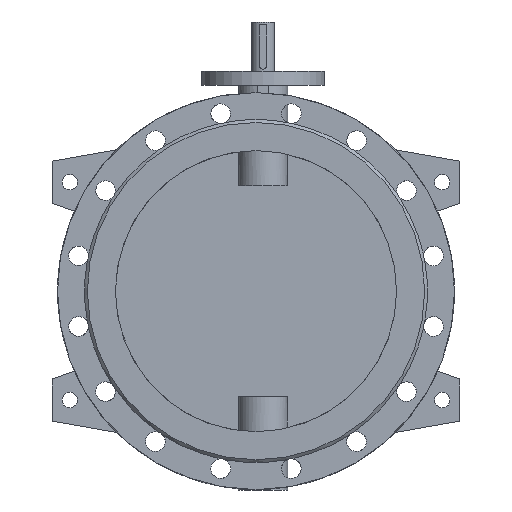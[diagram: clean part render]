
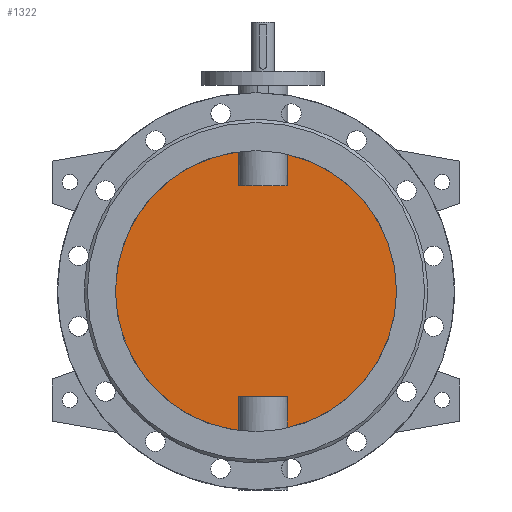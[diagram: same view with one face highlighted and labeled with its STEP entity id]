
A CAD part, front view. The second image highlights one B-rep face of the part: STEP entity #1322.
In plain terms, the highlighted planar face has unit normal (0, -1, 0).
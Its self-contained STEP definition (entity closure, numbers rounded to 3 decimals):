
#1322=ADVANCED_FACE('',(#2704),#2706,.F.);
#2704=FACE_BOUND('',#2705,.T.);
#2705=EDGE_LOOP('',(#3693,#3694,#3695,#3696,#3697,#3698,#3699,#3700));
#2706=PLANE('',#2707);
#2707=AXIS2_PLACEMENT_3D('',#2708,#2709,#2710);
#2708=CARTESIAN_POINT('',(0.,-5.,0.));
#2709=DIRECTION('',(0.,1.,0.));
#2710=DIRECTION('',(1.,0.,0.));
#3693=ORIENTED_EDGE('',*,*,#4198,.T.);
#3694=ORIENTED_EDGE('',*,*,#4204,.T.);
#3695=ORIENTED_EDGE('',*,*,#4205,.T.);
#3696=ORIENTED_EDGE('',*,*,#4206,.T.);
#3697=ORIENTED_EDGE('',*,*,#4200,.T.);
#3698=ORIENTED_EDGE('',*,*,#4207,.T.);
#3699=ORIENTED_EDGE('',*,*,#4208,.T.);
#3700=ORIENTED_EDGE('',*,*,#4209,.T.);
#4198=EDGE_CURVE('',#4989,#4990,#4991,.F.);
#4200=EDGE_CURVE('',#4994,#4992,#4995,.F.);
#4204=EDGE_CURVE('',#4990,#5001,#5002,.T.);
#4205=EDGE_CURVE('',#5001,#5003,#5004,.F.);
#4206=EDGE_CURVE('',#5003,#4994,#5005,.F.);
#4207=EDGE_CURVE('',#4992,#5006,#5007,.F.);
#4208=EDGE_CURVE('',#5006,#5008,#5009,.F.);
#4209=EDGE_CURVE('',#5008,#4989,#5010,.T.);
#4989=VERTEX_POINT('',#8770);
#4990=VERTEX_POINT('',#8771);
#4991=CIRCLE('',#8772,200.);
#4992=VERTEX_POINT('',#8776);
#4994=VERTEX_POINT('',#8839);
#4995=CIRCLE('',#8840,200.);
#5001=VERTEX_POINT('',#8967);
#5002=LINE('',#8968,#8969);
#5003=VERTEX_POINT('',#8971);
#5004=LINE('',#8972,#8973);
#5005=LINE('',#8975,#8976);
#5006=VERTEX_POINT('',#8978);
#5007=LINE('',#8979,#8980);
#5008=VERTEX_POINT('',#8982);
#5009=LINE('',#8983,#8984);
#5010=LINE('',#8986,#8987);
#8770=CARTESIAN_POINT('',(44.641,-5.,-194.954));
#8771=CARTESIAN_POINT('',(44.641,-5.,194.954));
#8772=AXIS2_PLACEMENT_3D('',#8773,#8774,#8775);
#8773=CARTESIAN_POINT('',(0.,-5.,0.));
#8774=DIRECTION('',(0.,1.,0.));
#8775=DIRECTION('',(0.223,0.,0.975));
#8776=CARTESIAN_POINT('',(-24.641,-5.,-198.476));
#8839=CARTESIAN_POINT('',(-24.641,-5.,198.476));
#8840=AXIS2_PLACEMENT_3D('',#8841,#8842,#8843);
#8841=CARTESIAN_POINT('',(0.,-5.,0.));
#8842=DIRECTION('',(0.,1.,0.));
#8843=DIRECTION('',(-0.123,0.,-0.992));
#8967=CARTESIAN_POINT('',(44.641,-5.,150.));
#8968=CARTESIAN_POINT('',(44.641,-5.,194.954));
#8969=VECTOR('',#8970,1.);
#8970=DIRECTION('',(0.,0.,-1.));
#8971=CARTESIAN_POINT('',(-24.641,-5.,150.));
#8972=CARTESIAN_POINT('',(-24.641,-5.,150.));
#8973=VECTOR('',#8974,1.);
#8974=DIRECTION('',(1.,0.,0.));
#8975=CARTESIAN_POINT('',(-24.641,-5.,198.476));
#8976=VECTOR('',#8977,1.);
#8977=DIRECTION('',(0.,0.,-1.));
#8978=CARTESIAN_POINT('',(-24.641,-5.,-150.));
#8979=CARTESIAN_POINT('',(-24.641,-5.,-150.));
#8980=VECTOR('',#8981,1.);
#8981=DIRECTION('',(0.,0.,-1.));
#8982=CARTESIAN_POINT('',(44.641,-5.,-150.));
#8983=CARTESIAN_POINT('',(44.641,-5.,-150.));
#8984=VECTOR('',#8985,1.);
#8985=DIRECTION('',(-1.,0.,0.));
#8986=CARTESIAN_POINT('',(44.641,-5.,-150.));
#8987=VECTOR('',#8988,1.);
#8988=DIRECTION('',(0.,0.,-1.));
